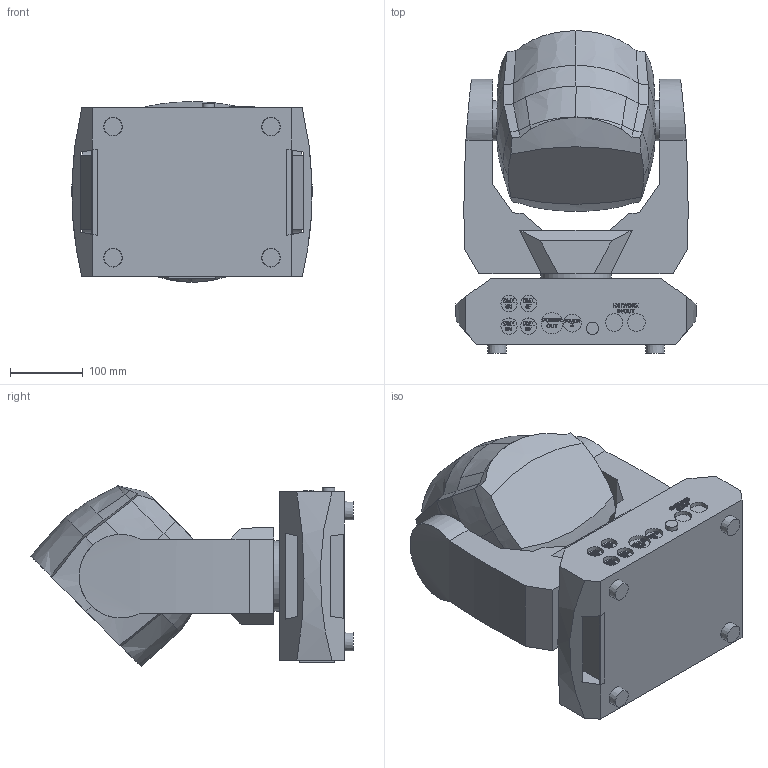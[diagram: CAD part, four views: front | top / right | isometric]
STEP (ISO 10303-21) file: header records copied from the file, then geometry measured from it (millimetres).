
FILE_DESCRIPTION(/* description */ (''),/* implementation_level */ '2;1');
FILE_NAME(/* name */ 'Maverick Force 2 BeamWash_45.step',/* time_stamp */ '2024-01-16T13:51:39-05:00',/* author */ ('dgooch'),/* organization */ (''),/* preprocessor_version */ 'ST-DEVELOPER v20',/* originating_system */ 'Autodesk Inventor 2024',/* authorisation */ '');
FILE_SCHEMA (('AUTOMOTIVE_DESIGN { 1 0 10303 214 3 1 1 }'));
Length unit declared in the file: millimetre
Products named in the file (4): Maverick Force 2 BeamWash; Head; Arms; Base
Assembly tree (3 placements, depth 2):
  Maverick Force 2 BeamWash
    Head
    Arms
    Base
Bounding box: 329.98 x 442.89 x 248.09 mm (x, y, z)
Volume: 15980180.8 mm3; surface area: 680326.4 mm2
Topology: 3 solids, 3 shells, 1008 faces, 2721 edges, 1800 vertices
Faces by surface type: plane 538, bspline 444, cylinder 22, cone 4
Full cylindrical faces by diameter (mm): 17 x1, 22.2 x4, 24 x2, 24.5 x1, 29.5 x1, 55 x4, 97 x2, 201.966 x1
Entity records: 36206 total; most frequent: CARTESIAN_POINT 13562, ORIENTED_EDGE 5442, DIRECTION 3113, EDGE_CURVE 2721, LINE 1827, VECTOR 1827, VERTEX_POINT 1800, EDGE_LOOP 1093
